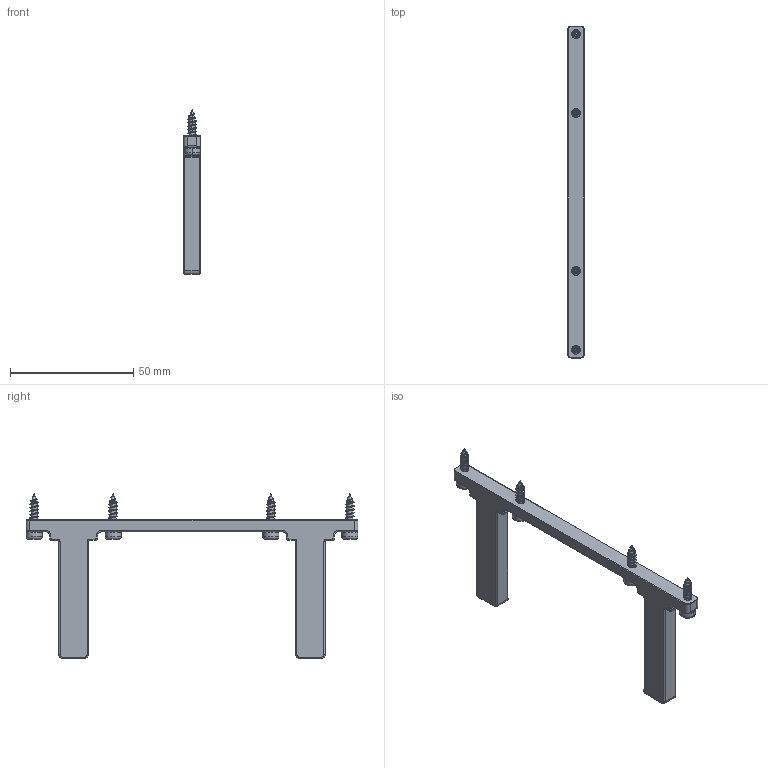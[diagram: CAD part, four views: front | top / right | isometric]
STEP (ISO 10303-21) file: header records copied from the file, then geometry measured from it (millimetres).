
FILE_DESCRIPTION (( 'STEP AP203' ), '1' );
FILE_NAME ('HE13011.STEP', '2020-09-14T02:03:00', ( 'Users' ), ( 'Microsoft' ), 'SwSTEP 2.0', 'SolidWorks 2018', '' );
FILE_SCHEMA (( 'CONFIG_CONTROL_DESIGN' ));
Length unit declared in the file: millimetre
Products named in the file (1): HE13011
Bounding box: 6.8 x 134.6 x 66.8 mm (x, y, z)
Volume: 13759.4 mm3; surface area: 7720 mm2
Topology: 1 solids, 1 shells, 390 faces, 1048 edges, 652 vertices
Faces by surface type: plane 158, cylinder 116, torus 68, bspline 28, cone 20
Entity records: 19033 total; most frequent: CARTESIAN_POINT 9987, ORIENTED_EDGE 2072, DIRECTION 1662, EDGE_CURVE 1036, AXIS2_PLACEMENT_3D 655, VERTEX_POINT 652, EDGE_LOOP 394, ADVANCED_FACE 390
